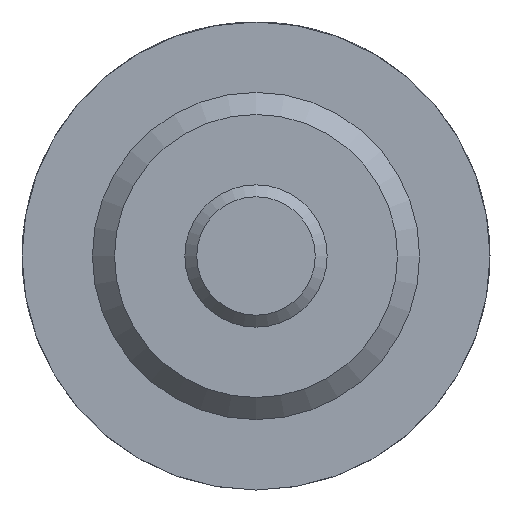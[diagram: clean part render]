
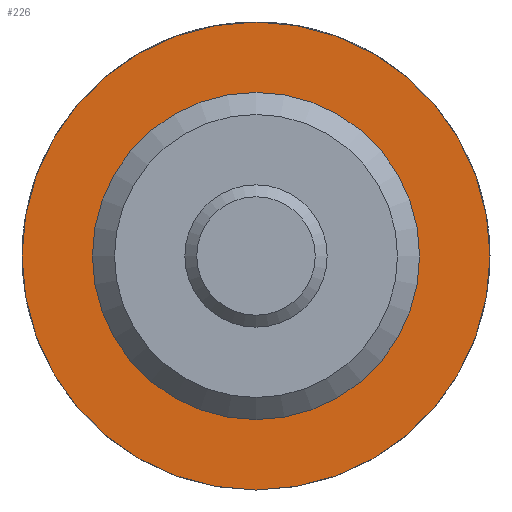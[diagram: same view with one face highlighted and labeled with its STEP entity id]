
A CAD part, left-side view. The second image highlights one B-rep face of the part: STEP entity #226.
In plain terms, the highlighted planar face has unit normal (-1, 0, 0).
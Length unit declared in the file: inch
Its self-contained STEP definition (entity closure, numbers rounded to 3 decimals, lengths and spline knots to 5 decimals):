
#226 = ADVANCED_FACE( '', ( #464, #465 ), #466, .F. );
#464 = FACE_OUTER_BOUND( '', #691, .T. );
#465 = FACE_BOUND( '', #692, .T. );
#466 = PLANE( '', #693 );
#691 = EDGE_LOOP( '', ( #1090 ) );
#692 = EDGE_LOOP( '', ( #1091 ) );
#693 = AXIS2_PLACEMENT_3D( '', #1092, #1093, #1094 );
#1090 = ORIENTED_EDGE( '', *, *, #1226, .F. );
#1091 = ORIENTED_EDGE( '', *, *, #1209, .T. );
#1092 = CARTESIAN_POINT( '', ( 0.375, 0.2185, 0. ) );
#1093 = DIRECTION( '', ( 1., 0., 0. ) );
#1094 = DIRECTION( '', ( 0., 0., -1. ) );
#1209 = EDGE_CURVE( '', #1408, #1408, #1409, .T. );
#1226 = EDGE_CURVE( '', #1431, #1431, #1432, .T. );
#1408 = VERTEX_POINT( '', #1751 );
#1409 = CIRCLE( '', #1752, 0.2185 );
#1431 = VERTEX_POINT( '', #1784 );
#1432 = CIRCLE( '', #1785, 0.3125 );
#1751 = CARTESIAN_POINT( '', ( 0.375, 0., -0.2185 ) );
#1752 = AXIS2_PLACEMENT_3D( '', #2061, #2062, #2063 );
#1784 = CARTESIAN_POINT( '', ( 0.375, 0., -0.3125 ) );
#1785 = AXIS2_PLACEMENT_3D( '', #2080, #2081, #2082 );
#2061 = CARTESIAN_POINT( '', ( 0.375, 0., 0. ) );
#2062 = DIRECTION( '', ( 1., 0., 0. ) );
#2063 = DIRECTION( '', ( 0., 0., -1. ) );
#2080 = CARTESIAN_POINT( '', ( 0.375, 0., 0. ) );
#2081 = DIRECTION( '', ( 1., 0., 0. ) );
#2082 = DIRECTION( '', ( 0., 0., -1. ) );
